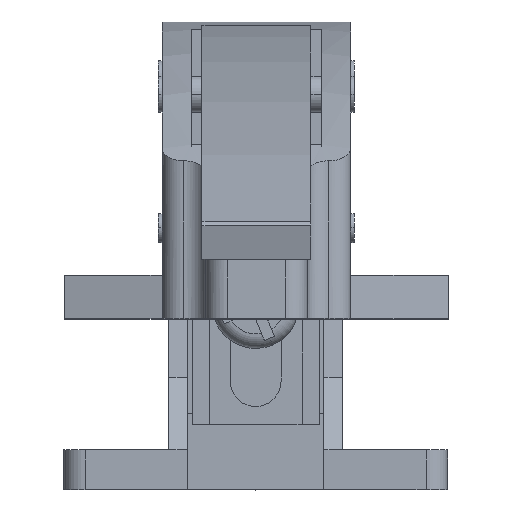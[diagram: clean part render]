
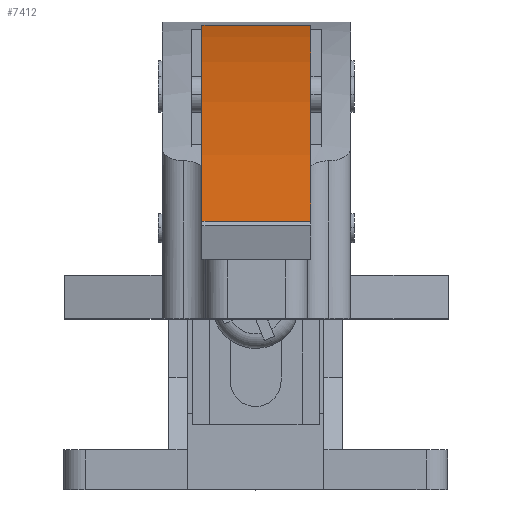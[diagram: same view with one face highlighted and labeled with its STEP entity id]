
A CAD part, top view. The second image highlights one B-rep face of the part: STEP entity #7412.
In plain terms, the highlighted cylindrical face has radius 304.377 mm (diameter 608.755 mm), a partial arc.
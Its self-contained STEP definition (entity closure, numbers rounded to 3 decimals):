
#147 = EDGE_CURVE ( 'NONE', #2953, #1624, #2349, .T. ) ;
#546 = DIRECTION ( 'NONE',  ( -1., 0., 0. ) ) ;
#599 = DIRECTION ( 'NONE',  ( 0., 0., -1. ) ) ;
#722 = EDGE_LOOP ( 'NONE', ( #3898, #6106, #2171, #3847 ) ) ;
#1100 = DIRECTION ( 'NONE',  ( 1., 0., 0. ) ) ;
#1416 = CARTESIAN_POINT ( 'NONE',  ( 7.5, 40.497, -12.948 ) ) ;
#1624 = VERTEX_POINT ( 'NONE', #4333 ) ;
#1867 = DIRECTION ( 'NONE',  ( -1., 0., 0. ) ) ;
#2010 = CIRCLE ( 'NONE', #9166, 304.377 ) ;
#2042 = AXIS2_PLACEMENT_3D ( 'NONE', #8227, #1100, #3504 ) ;
#2171 = ORIENTED_EDGE ( 'NONE', *, *, #10240, .F. ) ;
#2303 = CARTESIAN_POINT ( 'NONE',  ( 7.5, 13.294, 105.211 ) ) ;
#2349 = LINE ( 'NONE', #1416, #4112 ) ;
#2701 = CIRCLE ( 'NONE', #2042, 304.377 ) ;
#2953 = VERTEX_POINT ( 'NONE', #7606 ) ;
#3329 = DIRECTION ( 'NONE',  ( 0., 0., 1. ) ) ;
#3504 = DIRECTION ( 'NONE',  ( 0., 0., -1. ) ) ;
#3773 = LINE ( 'NONE', #4456, #5262 ) ;
#3847 = ORIENTED_EDGE ( 'NONE', *, *, #147, .T. ) ;
#3898 = ORIENTED_EDGE ( 'NONE', *, *, #9567, .T. ) ;
#4112 = VECTOR ( 'NONE', #5531, 1000. ) ;
#4333 = CARTESIAN_POINT ( 'NONE',  ( -7.5, 40.497, -12.948 ) ) ;
#4456 = CARTESIAN_POINT ( 'NONE',  ( 7.5, 13.294, 105.211 ) ) ;
#4689 = FACE_OUTER_BOUND ( 'NONE', #722, .T. ) ;
#4720 = CARTESIAN_POINT ( 'NONE',  ( -7.5, -263.779, -20.789 ) ) ;
#5140 = EDGE_CURVE ( 'NONE', #8692, #7165, #3773, .T. ) ;
#5262 = VECTOR ( 'NONE', #546, 1000. ) ;
#5531 = DIRECTION ( 'NONE',  ( -1., 0., 0. ) ) ;
#5623 = CYLINDRICAL_SURFACE ( 'NONE', #9608, 304.377 ) ;
#6106 = ORIENTED_EDGE ( 'NONE', *, *, #5140, .F. ) ;
#7165 = VERTEX_POINT ( 'NONE', #9158 ) ;
#7412 = ADVANCED_FACE ( 'NONE', ( #4689 ), #5623, .T. ) ;
#7606 = CARTESIAN_POINT ( 'NONE',  ( 7.5, 40.497, -12.948 ) ) ;
#8227 = CARTESIAN_POINT ( 'NONE',  ( 7.5, -263.779, -20.789 ) ) ;
#8692 = VERTEX_POINT ( 'NONE', #2303 ) ;
#8778 = CARTESIAN_POINT ( 'NONE',  ( 7.5, -263.779, -20.789 ) ) ;
#9158 = CARTESIAN_POINT ( 'NONE',  ( -7.5, 13.294, 105.211 ) ) ;
#9166 = AXIS2_PLACEMENT_3D ( 'NONE', #4720, #9440, #599 ) ;
#9440 = DIRECTION ( 'NONE',  ( 1., 0., 0. ) ) ;
#9567 = EDGE_CURVE ( 'NONE', #1624, #7165, #2010, .T. ) ;
#9608 = AXIS2_PLACEMENT_3D ( 'NONE', #8778, #1867, #3329 ) ;
#10240 = EDGE_CURVE ( 'NONE', #2953, #8692, #2701, .T. ) ;
